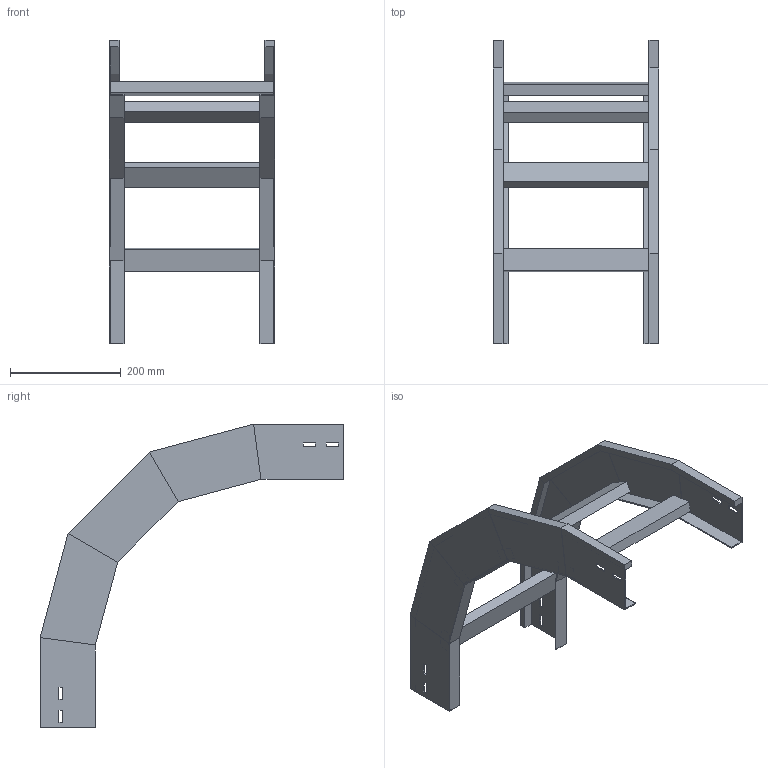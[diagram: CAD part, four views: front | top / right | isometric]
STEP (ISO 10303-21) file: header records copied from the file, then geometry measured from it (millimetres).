
FILE_DESCRIPTION (( 'STEP AP214' ), '1' );
FILE_NAME ('A2_33B3D300.step', '2025-02-21T15:01:50', ( '' ), ( '' ), 'SwSTEP 2.0', 'SolidWorks 2023', '' );
FILE_SCHEMA (( 'AUTOMOTIVE_DESIGN' ));
Length unit declared in the file: millimetre
Products named in the file (3): TRAVERSINO_300; A2_33B3D300; LONGH.DISCESA_90°_H100_R300
Assembly tree (6 placements, depth 2):
  A2_33B3D300
    LONGH.DISCESA_90°_H100_R300  x2
    TRAVERSINO_300  x4
Bounding box: 300 x 549.44 x 549.44 mm (x, y, z)
Volume: 1722660.1 mm3; surface area: 629939.4 mm2
Topology: 6 solids, 6 shells, 140 faces, 320 edges, 192 vertices
Faces by surface type: plane 140
Entity records: 1872 total; most frequent: CARTESIAN_POINT 309, ORIENTED_EDGE 296, DIRECTION 294, VECTOR 148, EDGE_CURVE 148, LINE 148, VERTEX_POINT 88, AXIS2_PLACEMENT_3D 73
